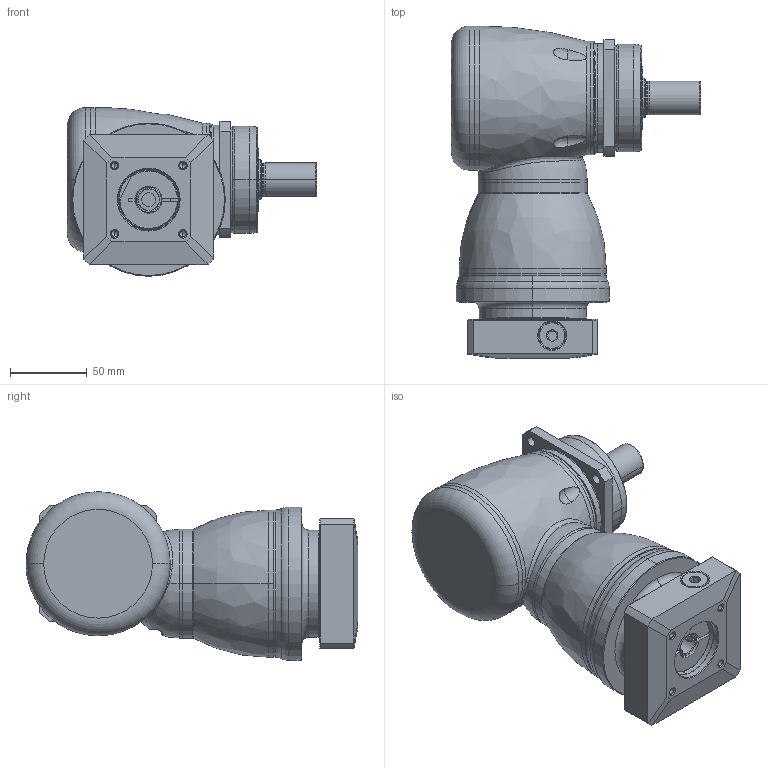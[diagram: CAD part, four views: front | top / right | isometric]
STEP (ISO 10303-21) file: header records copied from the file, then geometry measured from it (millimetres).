
FILE_DESCRIPTION((''),'2;1');
FILE_NAME('KF075_1ST_14-P0409310101_ASM','2016-06-21T',('d01943'),(''),'PRO/ENGINEER BY PARAMETRIC TECHNOLOGY CORPORATION, 2008410','PRO/ENGINEER BY PARAMETRIC TECHNOLOGY CORPORATION, 2008410','');
FILE_SCHEMA(('CONFIG_CONTROL_DESIGN'));
Length unit declared in the file: millimetre
Products named in the file (11): P1008300002; P1804300001; P0915300001; P1315300001; P1007300001; P1318300101; P0409310101; P0503300006; P0912301001; 21711412017; KF075_1ST_14-P0409310101_ASM
Assembly tree (10 placements, depth 2):
  KF075_1ST_14-P0409310101_ASM
    P1008300002
    P1804300001
    P0915300001
    P1315300001
    P1007300001
    P1318300101
    P0409310101
    P0503300006
    P0912301001
    21711412017
Bounding box: 162.5 x 216.5 x 110 mm (x, y, z)
Volume: 1135398 mm3; surface area: 194908.8 mm2
Topology: 11 solids, 11 shells, 459 faces, 1057 edges, 631 vertices
Faces by surface type: cylinder 145, cone 106, plane 86, torus 72, bspline 48, sphere 2
Entity records: 20490 total; most frequent: CARTESIAN_POINT 10098, DIRECTION 2244, ORIENTED_EDGE 2052, EDGE_CURVE 1026, AXIS2_PLACEMENT_3D 962, VERTEX_POINT 624, CIRCLE 530, EDGE_LOOP 520
